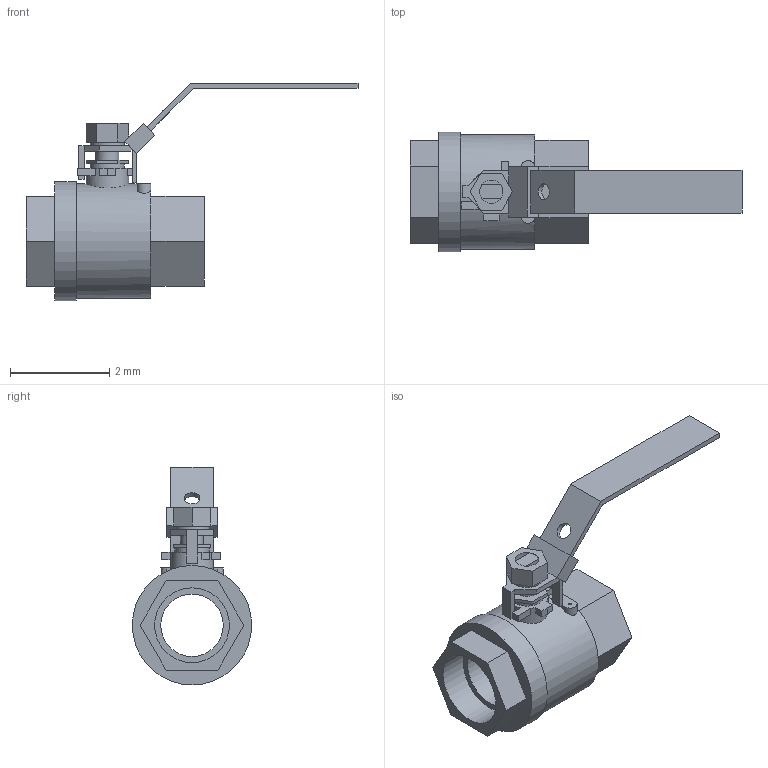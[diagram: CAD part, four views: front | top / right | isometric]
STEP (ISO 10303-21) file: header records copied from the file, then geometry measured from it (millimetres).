
FILE_DESCRIPTION(('Open CASCADE Model'),'2;1');
FILE_NAME('Open CASCADE Shape Model','2021-10-21T14:46:42',('Author'),( 'Open CASCADE'),'Open CASCADE STEP processor 7.3','Open CASCADE 7.3' ,'Unknown');
FILE_SCHEMA(('AUTOMOTIVE_DESIGN { 1 0 10303 214 1 1 1 1 }'));
Length unit declared in the file: millimetre
Products named in the file (1): Open CASCADE STEP translator 7.3 1
Bounding box: 6.69 x 2.41 x 4.39 mm (x, y, z)
Volume: 8.9 mm3; surface area: 66.3 mm2
Topology: 1 solids, 1 shells, 116 faces, 292 edges, 191 vertices
Faces by surface type: plane 99, cylinder 17
Full cylindrical faces by diameter (mm): 0.055 x2, 0.32 x1, 0.467 x1, 0.47 x1, 0.685 x1, 0.69 x1, 0.86 x1, 1.26 x1, 1.508 x2, 2.309 x1, 2.408 x1
Entity records: 7734 total; most frequent: CARTESIAN_POINT 1786, DIRECTION 1104, LINE 764, VECTOR 764, ORIENTED_EDGE 584, PCURVE 584, DEFINITIONAL_REPRESENTATION 584, EDGE_CURVE 292
